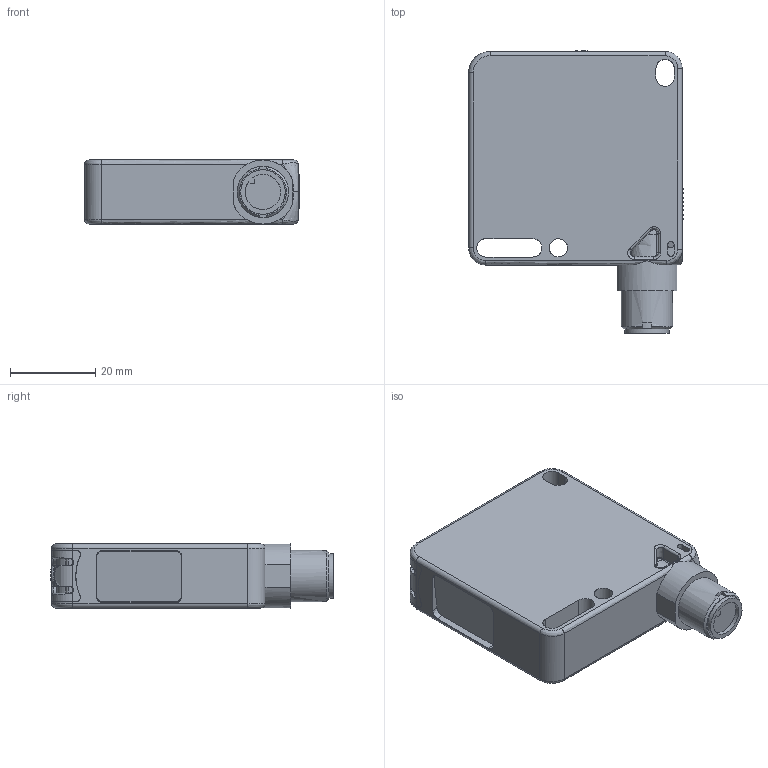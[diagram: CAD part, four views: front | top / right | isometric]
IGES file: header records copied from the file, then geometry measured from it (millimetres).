
Global section: file name: D:\Studi\DSD-0182.igs; preprocessor: I-DEAS 3D IGES Translator 11; date: 20080901.122815; units: millimetre
Bounding box: 50.25 x 66.2 x 15 mm (x, y, z)
Volume: 37177.9 mm3; surface area: 10756.3 mm2
Topology: 2 solids, 3 shells, 300 faces, 798 edges, 531 vertices
Faces by surface type: bspline 300
